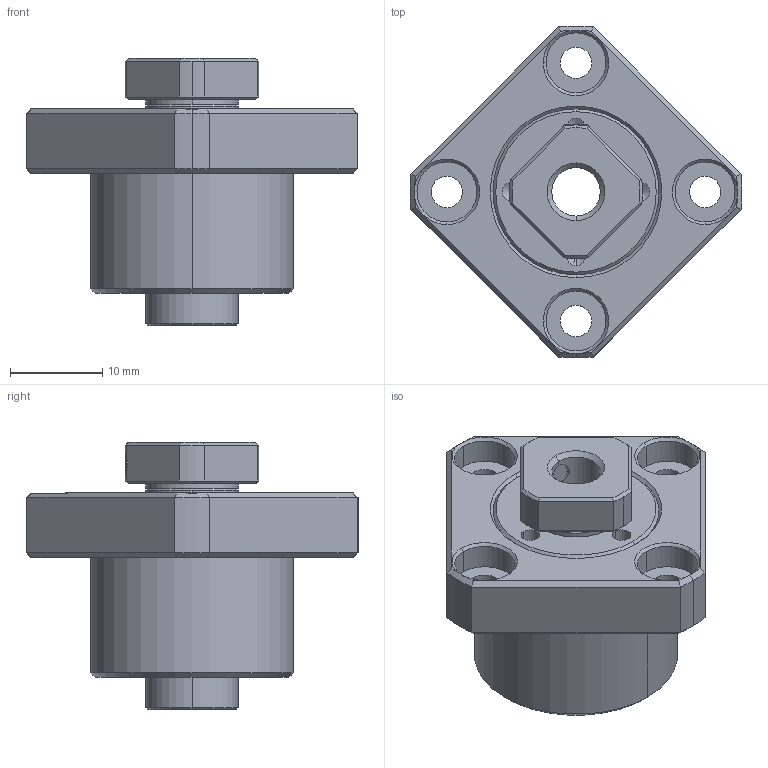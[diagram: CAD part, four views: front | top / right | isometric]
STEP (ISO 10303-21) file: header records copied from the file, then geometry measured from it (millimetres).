
FILE_DESCRIPTION (( 'STEP AP203' ), '1' );
FILE_NAME ('FSGK-6-P5_203.STEP', '2013-02-28T00:23:51', ( '' ), ( '' ), 'SwSTEP 2.0', 'SolidWorks 2012', '' );
FILE_SCHEMA (( 'CONFIG_CONTROL_DESIGN' ));
Length unit declared in the file: millimetre
Products named in the file (1): FSGK-6-P5_203
Bounding box: 35.98 x 36 x 29 mm (x, y, z)
Volume: 9452.1 mm3; surface area: 5489.9 mm2
Topology: 1 solids, 6 shells, 233 faces, 539 edges, 320 vertices
Faces by surface type: cone 86, cylinder 76, plane 55, torus 16
Entity records: 6745 total; most frequent: CARTESIAN_POINT 1295, DIRECTION 1222, ORIENTED_EDGE 1058, EDGE_CURVE 529, AXIS2_PLACEMENT_3D 511, VERTEX_POINT 320, CIRCLE 277, EDGE_LOOP 263
